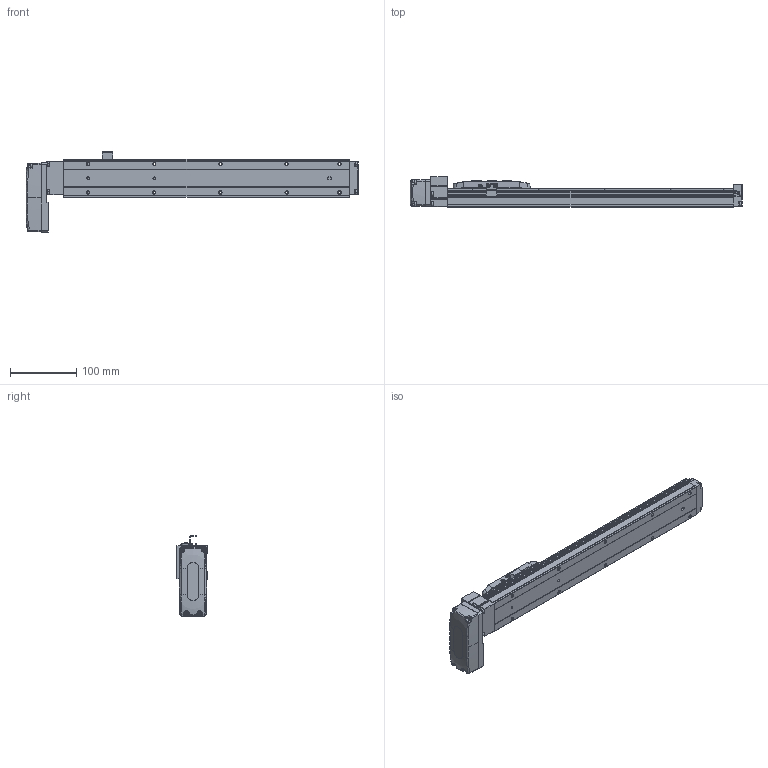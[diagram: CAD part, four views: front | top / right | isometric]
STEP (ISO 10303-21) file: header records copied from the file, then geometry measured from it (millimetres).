
FILE_DESCRIPTION (( 'STEP AP203' ), '1' );
FILE_NAME ('EFS-05R_MY.STEP', '2025-07-17T05:40:48', ( '' ), ( '' ), 'SwSTEP 2.0', 'SolidWorks 2024', '' );
FILE_SCHEMA (( 'CONFIG_CONTROL_DESIGN' ));
Length unit declared in the file: millimetre
Products named in the file (1): EFS-05R_MY
Bounding box: 502 x 46 x 121.5 mm (x, y, z)
Volume: 852367.1 mm3; surface area: 162708.8 mm2
Topology: 24 solids, 24 shells, 1447 faces, 3602 edges, 2226 vertices
Faces by surface type: plane 622, cylinder 507, cone 124, torus 88, bspline 78, sphere 28
Entity records: 46608 total; most frequent: CARTESIAN_POINT 12865, ORIENTED_EDGE 7100, DIRECTION 6970, EDGE_CURVE 3550, AXIS2_PLACEMENT_3D 2530, VERTEX_POINT 2226, LINE 1910, VECTOR 1910
